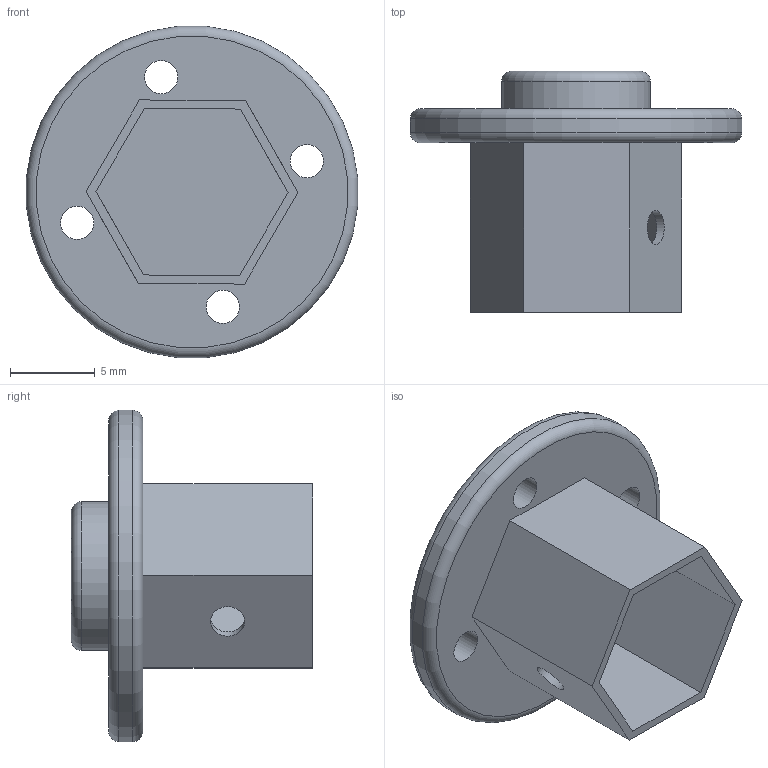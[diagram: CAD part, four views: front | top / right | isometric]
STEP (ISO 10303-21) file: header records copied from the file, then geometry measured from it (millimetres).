
FILE_DESCRIPTION(/* description */ ('STEP AP242 Edition 2','CAx-IF Rec.Pracs.---Representation and Presentation of Product Manufacturing Information (PMI)---4.0---2014-10-13','CAx-IF Rec.Pracs.---3D Tessellated Geometry---0.4---2014-09-14','2;1','CAx-IF Rec.Pracs.---User Defined Attributes---1.5---2016-08-15'),/* implementation_level */ '2;1');
FILE_NAME(/* name */ 'Assembly 1 - Servo',/* time_stamp */ '2026-08-25T12:52:25Z',/* author */ (''),/* organization */ (''),/* preprocessor_version */ 'ST-DEVELOPER v20',/* originating_system */ 'ONSHAPE BY PTC INC, 1.219',/* authorisation */ ' ');
FILE_SCHEMA (('AP242_MANAGED_MODEL_BASED_3D_ENGINEERING_MIM_LF { 1 0 10303 442 3 1 4 }'));
Length unit declared in the file: metre
Products named in the file (1): Servo
Bounding box: 19.5 x 14.2 x 19.5 mm (x, y, z)
Volume: 813.4 mm3; surface area: 1520.5 mm2
Topology: 1 solids, 1 shells, 30 faces, 70 edges, 46 vertices
Faces by surface type: plane 18, cylinder 9, torus 3
Full cylindrical faces by diameter (mm): 1.958 x4, 2 x2, 6 x1, 8.8 x1, 19.577 x1
Entity records: 836 total; most frequent: DIRECTION 140, CARTESIAN_POINT 133, ORIENTED_EDGE 114, EDGE_LOOP 58, FACE_BOUND 58, EDGE_CURVE 57, AXIS2_PLACEMENT_3D 52, VERTEX_POINT 45
